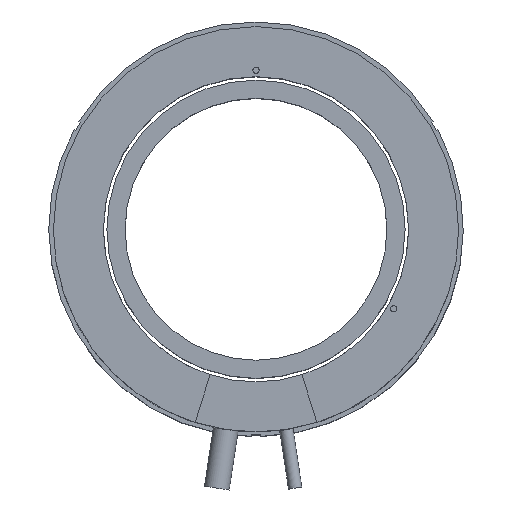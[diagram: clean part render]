
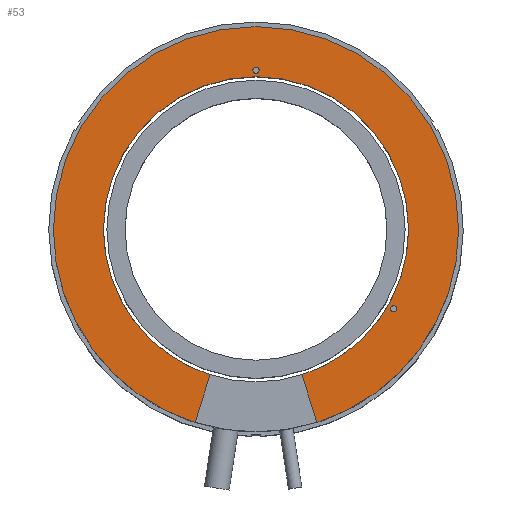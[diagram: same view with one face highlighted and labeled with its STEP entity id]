
A CAD part, top view. The second image highlights one B-rep face of the part: STEP entity #53.
In plain terms, the highlighted planar face has unit normal (0, 0, 1).
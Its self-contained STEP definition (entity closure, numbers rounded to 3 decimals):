
#17 = CIRCLE ( 'NONE', #698, 65. ) ;
#34 = FACE_BOUND ( 'NONE', #1062, .T. ) ;
#48 = CIRCLE ( 'NONE', #1389, 1. ) ;
#53 = ADVANCED_FACE ( 'NONE', ( #1402, #34, #261 ), #716, .T. ) ;
#54 = DIRECTION ( 'NONE',  ( 0., 0., 1. ) ) ;
#55 = CARTESIAN_POINT ( 'NONE',  ( 10.351, 64.993, 183.713 ) ) ;
#71 = ORIENTED_EDGE ( 'NONE', *, *, #1282, .T. ) ;
#76 = AXIS2_PLACEMENT_3D ( 'NONE', #112, #438, #891 ) ;
#101 = AXIS2_PLACEMENT_3D ( 'NONE', #997, #403, #190 ) ;
#112 = CARTESIAN_POINT ( 'NONE',  ( 74.064, 101.485, 183.713 ) ) ;
#113 = DIRECTION ( 'NONE',  ( -0.301, -0.954, 0. ) ) ;
#115 = EDGE_CURVE ( 'NONE', #1313, #127, #1166, .T. ) ;
#127 = VERTEX_POINT ( 'NONE', #522 ) ;
#149 = CARTESIAN_POINT ( 'NONE',  ( 28.897, 177.985, 183.713 ) ) ;
#157 = CARTESIAN_POINT ( 'NONE',  ( 15.177, 80.3, 183.713 ) ) ;
#166 = EDGE_CURVE ( 'NONE', #1395, #1328, #298, .T. ) ;
#190 = DIRECTION ( 'NONE',  ( 1., 0., 0. ) ) ;
#192 = DIRECTION ( 'NONE',  ( 1., 0., 0. ) ) ;
#218 = DIRECTION ( 'NONE',  ( 1., 0., 0. ) ) ;
#223 = AXIS2_PLACEMENT_3D ( 'NONE', #1474, #1365, #906 ) ;
#227 = CARTESIAN_POINT ( 'NONE',  ( 44.616, 80.3, 183.713 ) ) ;
#231 = VERTEX_POINT ( 'NONE', #565 ) ;
#233 = DIRECTION ( 'NONE',  ( 0., 0., 1. ) ) ;
#236 = EDGE_CURVE ( 'NONE', #1328, #1287, #1043, .T. ) ;
#261 = FACE_OUTER_BOUND ( 'NONE', #937, .T. ) ;
#268 = EDGE_CURVE ( 'NONE', #231, #745, #572, .T. ) ;
#276 = ORIENTED_EDGE ( 'NONE', *, *, #1430, .T. ) ;
#284 = AXIS2_PLACEMENT_3D ( 'NONE', #1141, #451, #218 ) ;
#298 = CIRCLE ( 'NONE', #383, 48.95 ) ;
#317 = ORIENTED_EDGE ( 'NONE', *, *, #115, .T. ) ;
#319 = AXIS2_PLACEMENT_3D ( 'NONE', #589, #355, #691 ) ;
#347 = DIRECTION ( 'NONE',  ( 0., 0., 1. ) ) ;
#355 = DIRECTION ( 'NONE',  ( 0., 0., 1. ) ) ;
#356 = DIRECTION ( 'NONE',  ( 0., 0., 1. ) ) ;
#376 = CARTESIAN_POINT ( 'NONE',  ( 30.897, 177.985, 183.713 ) ) ;
#383 = AXIS2_PLACEMENT_3D ( 'NONE', #1095, #54, #508 ) ;
#398 = CARTESIAN_POINT ( 'NONE',  ( 29.897, 177.985, 183.713 ) ) ;
#403 = DIRECTION ( 'NONE',  ( 0., 0., 1. ) ) ;
#436 = VERTEX_POINT ( 'NONE', #376 ) ;
#438 = DIRECTION ( 'NONE',  ( 0., 0., 1. ) ) ;
#439 = CARTESIAN_POINT ( 'NONE',  ( 94.897, 126.985, 183.713 ) ) ;
#451 = DIRECTION ( 'NONE',  ( 0., 0., 1. ) ) ;
#461 = ORIENTED_EDGE ( 'NONE', *, *, #803, .F. ) ;
#475 = CIRCLE ( 'NONE', #319, 48.95 ) ;
#508 = DIRECTION ( 'NONE',  ( 1., 0., 0. ) ) ;
#522 = CARTESIAN_POINT ( 'NONE',  ( -35.103, 126.985, 183.713 ) ) ;
#526 = ORIENTED_EDGE ( 'NONE', *, *, #665, .F. ) ;
#565 = CARTESIAN_POINT ( 'NONE',  ( 73.064, 101.485, 183.713 ) ) ;
#569 = ORIENTED_EDGE ( 'NONE', *, *, #971, .F. ) ;
#570 = DIRECTION ( 'NONE',  ( 1., 0., 0. ) ) ;
#572 = CIRCLE ( 'NONE', #76, 1. ) ;
#589 = CARTESIAN_POINT ( 'NONE',  ( 29.897, 126.985, 183.713 ) ) ;
#606 = AXIS2_PLACEMENT_3D ( 'NONE', #398, #875, #192 ) ;
#618 = CIRCLE ( 'NONE', #284, 65. ) ;
#630 = VERTEX_POINT ( 'NONE', #157 ) ;
#648 = VERTEX_POINT ( 'NONE', #149 ) ;
#665 = EDGE_CURVE ( 'NONE', #1283, #1395, #976, .T. ) ;
#690 = CARTESIAN_POINT ( 'NONE',  ( 29.897, 126.985, 183.713 ) ) ;
#691 = DIRECTION ( 'NONE',  ( 1., 0., 0. ) ) ;
#698 = AXIS2_PLACEMENT_3D ( 'NONE', #690, #347, #1035 ) ;
#716 = PLANE ( 'NONE',  #948 ) ;
#719 = ORIENTED_EDGE ( 'NONE', *, *, #268, .F. ) ;
#745 = VERTEX_POINT ( 'NONE', #1334 ) ;
#790 = CARTESIAN_POINT ( 'NONE',  ( 29.897, 177.985, 183.713 ) ) ;
#799 = CARTESIAN_POINT ( 'NONE',  ( 74.064, 101.485, 183.713 ) ) ;
#803 = EDGE_CURVE ( 'NONE', #436, #648, #880, .T. ) ;
#805 = CARTESIAN_POINT ( 'NONE',  ( 15.177, 80.3, 183.713 ) ) ;
#811 = CARTESIAN_POINT ( 'NONE',  ( 78.847, 126.985, 183.713 ) ) ;
#824 = ORIENTED_EDGE ( 'NONE', *, *, #236, .F. ) ;
#847 = DIRECTION ( 'NONE',  ( -0.301, 0.954, 0. ) ) ;
#867 = ORIENTED_EDGE ( 'NONE', *, *, #1411, .F. ) ;
#875 = DIRECTION ( 'NONE',  ( 0., 0., 1. ) ) ;
#880 = CIRCLE ( 'NONE', #606, 1. ) ;
#891 = DIRECTION ( 'NONE',  ( 1., 0., 0. ) ) ;
#906 = DIRECTION ( 'NONE',  ( 1., 0., 0. ) ) ;
#924 = AXIS2_PLACEMENT_3D ( 'NONE', #799, #1029, #1269 ) ;
#933 = CARTESIAN_POINT ( 'NONE',  ( 44.616, 80.3, 183.713 ) ) ;
#937 = EDGE_LOOP ( 'NONE', ( #526, #276, #317, #71, #867, #569, #824, #1472 ) ) ;
#944 = VECTOR ( 'NONE', #113, 1000. ) ;
#948 = AXIS2_PLACEMENT_3D ( 'NONE', #1412, #356, #1054 ) ;
#971 = EDGE_CURVE ( 'NONE', #1287, #630, #475, .T. ) ;
#972 = CIRCLE ( 'NONE', #924, 1. ) ;
#976 = LINE ( 'NONE', #227, #1325 ) ;
#997 = CARTESIAN_POINT ( 'NONE',  ( 29.897, 126.985, 183.713 ) ) ;
#1029 = DIRECTION ( 'NONE',  ( 0., 0., 1. ) ) ;
#1035 = DIRECTION ( 'NONE',  ( 1., 0., 0. ) ) ;
#1043 = CIRCLE ( 'NONE', #223, 48.95 ) ;
#1054 = DIRECTION ( 'NONE',  ( 1., 0., 0. ) ) ;
#1062 = EDGE_LOOP ( 'NONE', ( #461, #1063 ) ) ;
#1063 = ORIENTED_EDGE ( 'NONE', *, *, #1378, .F. ) ;
#1095 = CARTESIAN_POINT ( 'NONE',  ( 29.897, 126.985, 183.713 ) ) ;
#1107 = EDGE_LOOP ( 'NONE', ( #1456, #719 ) ) ;
#1141 = CARTESIAN_POINT ( 'NONE',  ( 29.897, 126.985, 183.713 ) ) ;
#1148 = CARTESIAN_POINT ( 'NONE',  ( -19.053, 126.985, 183.713 ) ) ;
#1161 = CARTESIAN_POINT ( 'NONE',  ( 49.443, 64.993, 183.713 ) ) ;
#1166 = CIRCLE ( 'NONE', #101, 65. ) ;
#1240 = VERTEX_POINT ( 'NONE', #55 ) ;
#1269 = DIRECTION ( 'NONE',  ( 1., 0., 0. ) ) ;
#1282 = EDGE_CURVE ( 'NONE', #127, #1240, #17, .T. ) ;
#1283 = VERTEX_POINT ( 'NONE', #1161 ) ;
#1287 = VERTEX_POINT ( 'NONE', #1148 ) ;
#1313 = VERTEX_POINT ( 'NONE', #439 ) ;
#1325 = VECTOR ( 'NONE', #847, 1000. ) ;
#1328 = VERTEX_POINT ( 'NONE', #811 ) ;
#1334 = CARTESIAN_POINT ( 'NONE',  ( 75.064, 101.485, 183.713 ) ) ;
#1363 = EDGE_CURVE ( 'NONE', #745, #231, #972, .T. ) ;
#1365 = DIRECTION ( 'NONE',  ( 0., 0., 1. ) ) ;
#1375 = LINE ( 'NONE', #805, #944 ) ;
#1378 = EDGE_CURVE ( 'NONE', #648, #436, #48, .T. ) ;
#1389 = AXIS2_PLACEMENT_3D ( 'NONE', #790, #233, #570 ) ;
#1395 = VERTEX_POINT ( 'NONE', #933 ) ;
#1402 = FACE_BOUND ( 'NONE', #1107, .T. ) ;
#1411 = EDGE_CURVE ( 'NONE', #630, #1240, #1375, .T. ) ;
#1412 = CARTESIAN_POINT ( 'NONE',  ( 78.847, 126.985, 183.713 ) ) ;
#1430 = EDGE_CURVE ( 'NONE', #1283, #1313, #618, .T. ) ;
#1456 = ORIENTED_EDGE ( 'NONE', *, *, #1363, .F. ) ;
#1472 = ORIENTED_EDGE ( 'NONE', *, *, #166, .F. ) ;
#1474 = CARTESIAN_POINT ( 'NONE',  ( 29.897, 126.985, 183.713 ) ) ;
